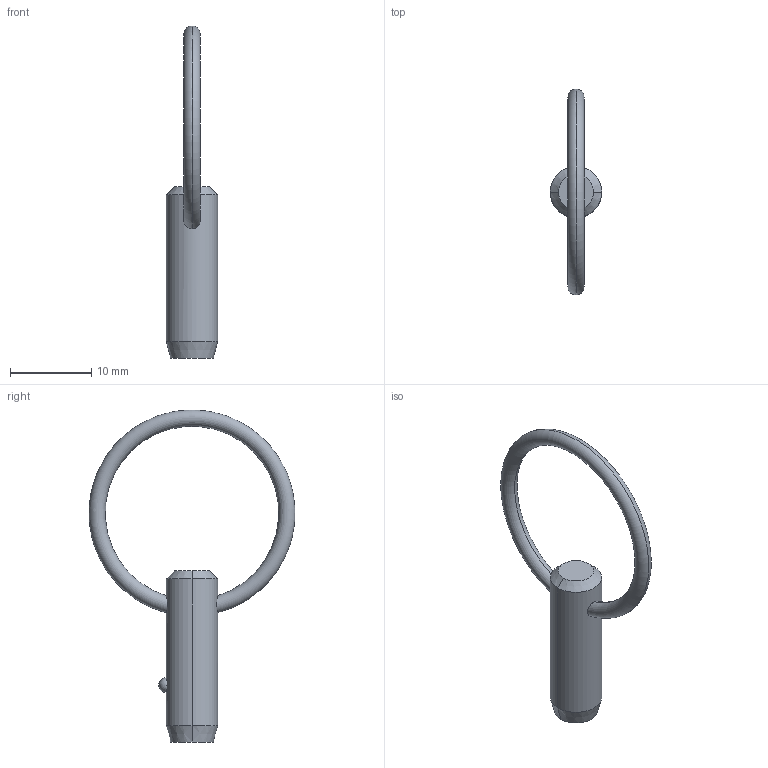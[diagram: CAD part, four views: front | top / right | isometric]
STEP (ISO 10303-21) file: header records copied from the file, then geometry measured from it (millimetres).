
FILE_DESCRIPTION (( 'STEP AP203' ), '1' );
FILE_NAME ('P1250.025-030.step', '2019-07-29T19:38:04', ( '' ), ( '' ), 'SwSTEP 2.0', 'SolidWorks 2017', '' );
FILE_SCHEMA (( 'CONFIG_CONTROL_DESIGN' ));
Length unit declared in the file: millimetre
Products named in the file (1): P1250.025-030
Bounding box: 6.35 x 25.38 x 40.94 mm (x, y, z)
Volume: 862.5 mm3; surface area: 878.7 mm2
Topology: 1 solids, 1 shells, 12 faces, 28 edges, 17 vertices
Faces by surface type: cone 4, torus 2, sphere 2, cylinder 2, plane 2
Entity records: 481 total; most frequent: CARTESIAN_POINT 148, DIRECTION 56, ORIENTED_EDGE 48, AXIS2_PLACEMENT_3D 25, EDGE_CURVE 24, EDGE_LOOP 15, VERTEX_POINT 15, CIRCLE 12
